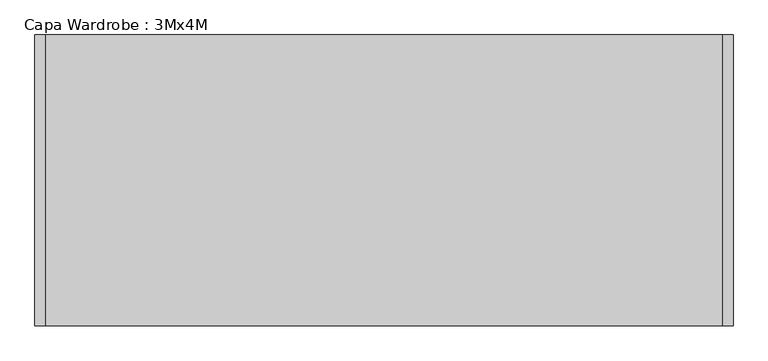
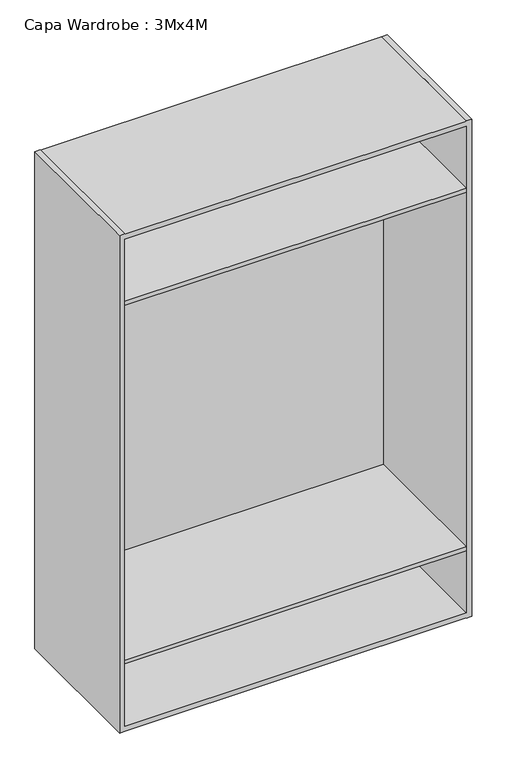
"""IFC4 building model written with IfcOpenShell, lengths in millimetres: furniture geometry, Capa Wardrobe : 3Mx4M."""

from ifc_helpers import new_model, si_unit, point, frame, frame_2d, origin, place, context, project, spatial, polyline, circle_curve, trimmed, segment, composite_curve, outline, extrude, faceted_brep, source, transform, mapped, element, save


def capa_wardrobe_3mx4m_1ceae35e(model_context):
    return source(origin(), model_context, "Body", "SolidModel", [
        extrude(outline(polyline([(582.0, -500.0), (-582.0, -500.0), (-582.0, -10.0), (582.0, -10.0), (582.0, -500.0)])), frame((0.0, 0.0, 1535.0), z_axis=(0.0, 0.0, 1.0), x_axis=(1.0, 0.0, 0.0)), (0.0, 0.0, 1.0), 14.0),
        extrude(outline(polyline([(582.0, -500.0), (-582.0, -500.0), (-582.0, -10.0), (582.0, -10.0), (582.0, -500.0)])), frame((0.0, 0.0, 243.0), z_axis=(0.0, 0.0, 1.0), x_axis=(1.0, 0.0, 0.0)), (0.0, 0.0, 1.0), 14.0),
        extrude(outline(composite_curve([segment(polyline([(-250.0, 1442.0), (-250.0, 1422.0)]), True, "CONTINUOUS"), segment(trimmed(circle_curve(frame_2d((-258.0, 1422.0)), 8.0), [point((-250.0, 1422.0))], [point((-266.0, 1422.0))], False, "CARTESIAN"), True, "CONTINUOUS"), segment(polyline([(-266.0, 1422.0), (-266.0, 1442.0)]), True, "CONTINUOUS"), segment(trimmed(circle_curve(frame_2d((-258.0, 1442.0)), 8.0), [point((-266.0, 1442.0))], [point((-250.0, 1442.0))], False, "CARTESIAN"), True, "CONTINUOUS")], self_intersect=False)), frame((-582.0, 0.0, 0.0), z_axis=(1.0, 0.0, 0.0), x_axis=(0.0, 1.0, 0.0)), (0.0, 0.0, 1.0), 1164.0),
        faceted_brep([(-582.0, 0.0, 1792.0), (-582.0, 0.0, 1791.0), (582.0, 0.0, 1791.0), (582.0, 0.0, 1792.0), (600.0, 0.0, 1792.0), (600.0, 0.0, 0.0), (582.0, 0.0, 0.0), (582.0, 0.0, 1.0), (-582.0, 0.0, 1.0), (-582.0, 0.0, 0.0), (-600.0, 0.0, 0.0), (-600.0, 0.0, 1792.0), (582.0, -10.0, 19.0), (582.0, -10.0, 1773.0), (-582.0, -10.0, 1773.0), (-582.0, -10.0, 19.0), (-582.0, -500.0, 1792.0), (-600.0, -500.0, 1792.0), (-600.0, -500.0, 0.0), (-582.0, -500.0, 0.0), (-582.0, -500.0, 1.0), (582.0, -500.0, 1.0), (582.0, -500.0, 0.0), (600.0, -500.0, 0.0), (600.0, -500.0, 1792.0), (582.0, -500.0, 1792.0), (582.0, -500.0, 1791.0), (-582.0, -500.0, 1791.0), (582.0, -500.0, 1773.0), (582.0, -500.0, 19.0), (-582.0, -500.0, 19.0), (-582.0, -500.0, 1773.0)], [[[0, 1, 2, 3, 4, 5, 6, 7, 8, 9, 10, 11]], [[12, 13, 14, 15]], [[16, 17, 18, 19, 20, 21, 22, 23, 24, 25, 26, 27], [28, 29, 30, 31]], [[17, 16, 0, 11]], [[18, 17, 11, 10]], [[23, 22, 6, 5]], [[24, 23, 5, 4]], [[19, 18, 10, 9]], [[20, 19, 9, 8]], [[21, 20, 8, 7]], [[22, 21, 7, 6]], [[25, 24, 4, 3]], [[26, 25, 3, 2]], [[27, 26, 2, 1]], [[16, 27, 1, 0]], [[29, 28, 13, 12]], [[30, 29, 12, 15]], [[31, 30, 15, 14]], [[28, 31, 14, 13]]]),
    ])


if __name__ == "__main__":
    model = new_model("IFC4")
    model_context = context("Model", 3, world=origin())
    ifc_project = project(units=[si_unit("LENGTHUNIT", "METRE", prefix="MILLI")], contexts=[model_context])
    site = spatial("IfcSite", under=ifc_project)
    building = spatial("IfcBuilding", under=site)
    placement = place(None, origin())
    capa_wardrobe_3mx4m_shape = capa_wardrobe_3mx4m_1ceae35e(model_context)
    element("IfcFurniture", 1, ObjectType="Capa Wardrobe : 3Mx4M", at=placement, inside=building, context=model_context, shape_type="MappedRepresentation", body=[
        mapped(capa_wardrobe_3mx4m_shape, transform((0.0, 0.0, 0.0), x_axis=(1.0, 0.0, 0.0), y_axis=(0.0, 1.0, 0.0), z_axis=(0.0, 0.0, 1.0))),
    ])
    save(model, "model.ifc")
